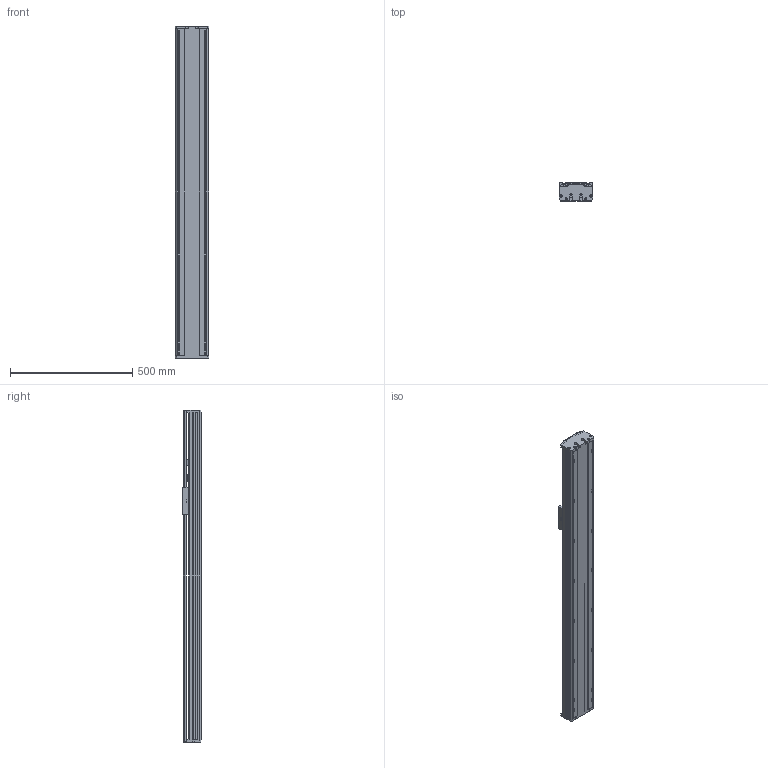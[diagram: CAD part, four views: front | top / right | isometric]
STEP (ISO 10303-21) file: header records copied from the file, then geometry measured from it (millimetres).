
FILE_DESCRIPTION(/* description */ (''),/* implementation_level */ '2;1');
FILE_NAME(/* name */ 'TKA136-FI-900_asm1.stp',/* time_stamp */ '2016-05-07T10:46:21+08:00',/* author */ (''),/* organization */ (''),/* preprocessor_version */ 'ST-DEVELOPER v15',/* originating_system */ 'SIEMENS PLM Software NX 8.5',/* authorisation */ '');
FILE_SCHEMA (('AUTOMOTIVE_DESIGN { 1 0 10303 214 3 1 1 1 }'));
Length unit declared in the file: millimetre
Products named in the file (3): 100-02; 100-01; TKA136-FI-900_asm1
Assembly tree (2 placements, depth 2):
  TKA136-FI-900_asm1
    100-01
    100-02
Bounding box: 136 x 75 x 1359 mm (x, y, z)
Volume: 4102204.7 mm3; surface area: 1553601.6 mm2
Topology: 2 solids, 12 shells, 991 faces, 2906 edges, 1907 vertices
Faces by surface type: cylinder 501, plane 440, cone 50
Full cylindrical faces by diameter (mm): 2.5 x4, 3.3 x8, 4.2 x8, 4.5 x20, 5 x14, 5.5 x14, 8 x20, 10 x9, 10.5 x10, 11.6 x1, 12 x8, 15 x3, 16 x5, 24 x3, 26 x1, 28 x1, 46 x1
Entity records: 35297 total; most frequent: CARTESIAN_POINT 9401, ORIENTED_EDGE 5368, DIRECTION 5270, EDGE_CURVE 2684, AXIS2_PLACEMENT_3D 1960, VERTEX_POINT 1859, LINE 1350, VECTOR 1350
